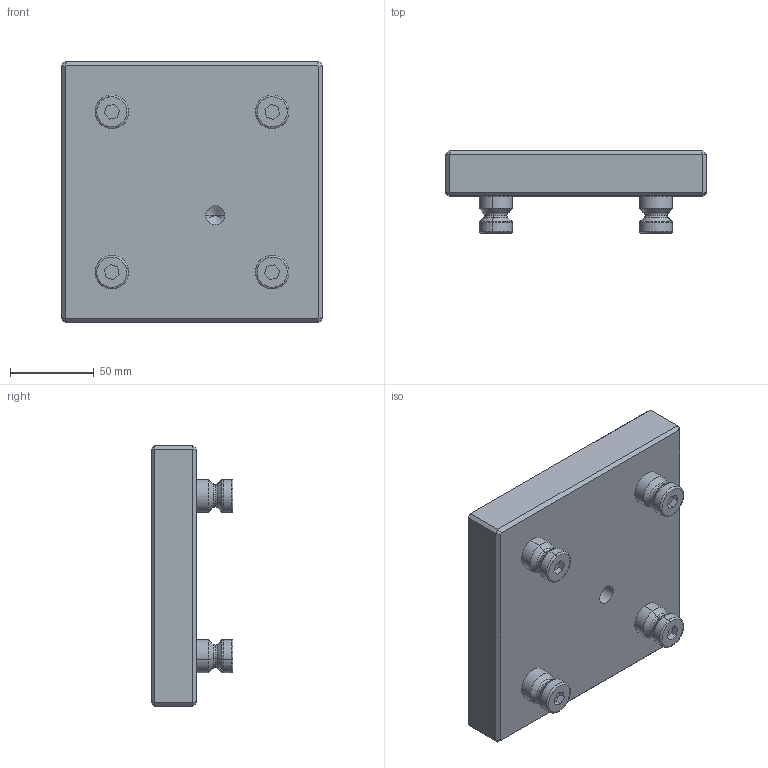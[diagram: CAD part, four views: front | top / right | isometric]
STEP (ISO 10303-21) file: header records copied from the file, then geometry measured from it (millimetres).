
FILE_DESCRIPTION (( 'STEP AP203' ), '1' );
FILE_NAME ('45575.STEP', '2012-10-24T14:10:46', ( '' ), ( '' ), 'SwSTEP 2.0', 'SolidWorks 2011', '' );
FILE_SCHEMA (( 'CONFIG_CONTROL_DESIGN' ));
Length unit declared in the file: millimetre
Products named in the file (1): 45575
Bounding box: 156 x 49 x 156 mm (x, y, z)
Volume: 672866.6 mm3; surface area: 76178.1 mm2
Topology: 5 solids, 5 shells, 178 faces, 378 edges, 217 vertices
Faces by surface type: plane 70, cylinder 42, cone 34, torus 32
Entity records: 4725 total; most frequent: DIRECTION 890, CARTESIAN_POINT 764, ORIENTED_EDGE 736, EDGE_CURVE 368, AXIS2_PLACEMENT_3D 343, VERTEX_POINT 217, LINE 204, VECTOR 204
